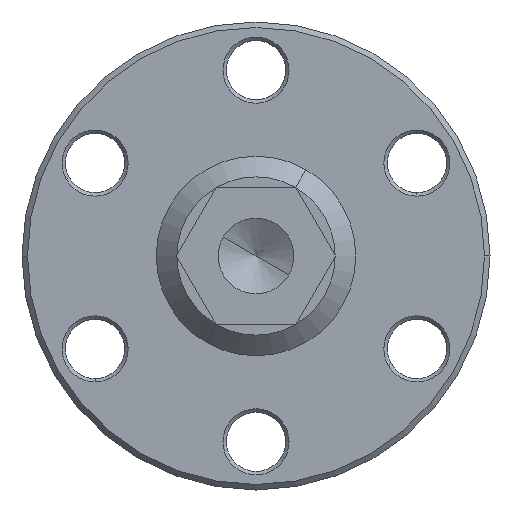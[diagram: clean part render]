
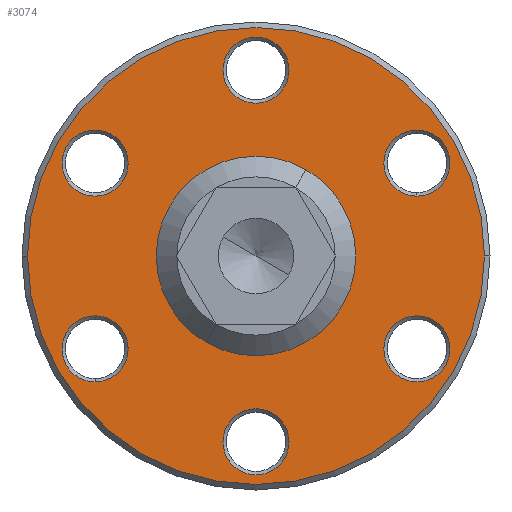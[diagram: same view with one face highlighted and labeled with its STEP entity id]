
A CAD part, left-side view. The second image highlights one B-rep face of the part: STEP entity #3074.
In plain terms, the highlighted planar face has unit normal (-1, 0, 0).
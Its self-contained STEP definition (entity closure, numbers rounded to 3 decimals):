
#91=CARTESIAN_POINT('',(0.,-16.6,0.));
#92=VERTEX_POINT('',#91);
#101=CARTESIAN_POINT('',(0.,16.6,0.));
#102=VERTEX_POINT('',#101);
#103=CARTESIAN_POINT('',(0.,0.,0.0));
#104=DIRECTION('',(1.0,0.0,0.0));
#105=DIRECTION('',(0.0,-1.0,0.0));
#106=AXIS2_PLACEMENT_3D('',#103,#104,#105);
#107=CIRCLE('',#106,16.6);
#108=EDGE_CURVE('',#92,#102,#107,.T.);
#694=CARTESIAN_POINT('',(0.,11.691,-9.15));
#695=VERTEX_POINT('',#694);
#709=CARTESIAN_POINT('',(0.,11.691,-4.35));
#710=VERTEX_POINT('',#709);
#717=CARTESIAN_POINT('',(0.,11.691,-6.75));
#718=DIRECTION('',(-1.0,0.0,0.0));
#719=DIRECTION('',(0.0,0.0,-1.0));
#720=AXIS2_PLACEMENT_3D('',#717,#718,#719);
#721=CIRCLE('',#720,2.4);
#722=EDGE_CURVE('',#710,#695,#721,.T.);
#833=CARTESIAN_POINT('',(0.,13.77,5.55));
#834=VERTEX_POINT('',#833);
#848=CARTESIAN_POINT('',(0.,9.613,7.95));
#849=VERTEX_POINT('',#848);
#856=CARTESIAN_POINT('',(0.,11.691,6.75));
#857=DIRECTION('',(-1.,0.,0.));
#858=DIRECTION('',(0.,0.866,-0.5));
#859=AXIS2_PLACEMENT_3D('',#856,#857,#858);
#860=CIRCLE('',#859,2.4);
#861=EDGE_CURVE('',#849,#834,#860,.T.);
#972=CARTESIAN_POINT('',(0.,2.078,14.7));
#973=VERTEX_POINT('',#972);
#987=CARTESIAN_POINT('',(0.,-2.078,12.3));
#988=VERTEX_POINT('',#987);
#995=CARTESIAN_POINT('',(0.,0.,13.5));
#996=DIRECTION('',(-1.,0.,0.));
#997=DIRECTION('',(0.,0.866,0.5));
#998=AXIS2_PLACEMENT_3D('',#995,#996,#997);
#999=CIRCLE('',#998,2.4);
#1000=EDGE_CURVE('',#988,#973,#999,.T.);
#1111=CARTESIAN_POINT('',(0.,-11.691,9.15));
#1112=VERTEX_POINT('',#1111);
#1126=CARTESIAN_POINT('',(0.,-11.691,4.35));
#1127=VERTEX_POINT('',#1126);
#1134=CARTESIAN_POINT('',(0.,-11.691,6.75));
#1135=DIRECTION('',(-1.0,0.0,0.0));
#1136=DIRECTION('',(0.0,0.0,1.0));
#1137=AXIS2_PLACEMENT_3D('',#1134,#1135,#1136);
#1138=CIRCLE('',#1137,2.4);
#1139=EDGE_CURVE('',#1127,#1112,#1138,.T.);
#1250=CARTESIAN_POINT('',(0.,-13.77,-5.55));
#1251=VERTEX_POINT('',#1250);
#1265=CARTESIAN_POINT('',(0.,-9.613,-7.95));
#1266=VERTEX_POINT('',#1265);
#1273=CARTESIAN_POINT('',(0.,-11.691,-6.75));
#1274=DIRECTION('',(-1.,0.,0.));
#1275=DIRECTION('',(0.,-0.866,0.5));
#1276=AXIS2_PLACEMENT_3D('',#1273,#1274,#1275);
#1277=CIRCLE('',#1276,2.4);
#1278=EDGE_CURVE('',#1266,#1251,#1277,.T.);
#1389=CARTESIAN_POINT('',(0.,-2.078,-14.7));
#1390=VERTEX_POINT('',#1389);
#1404=CARTESIAN_POINT('',(0.,2.078,-12.3));
#1405=VERTEX_POINT('',#1404);
#1412=CARTESIAN_POINT('',(0.,0.,-13.5));
#1413=DIRECTION('',(-1.0,0.,0.));
#1414=DIRECTION('',(0.,-0.866,-0.5));
#1415=AXIS2_PLACEMENT_3D('',#1412,#1413,#1414);
#1416=CIRCLE('',#1415,2.4);
#1417=EDGE_CURVE('',#1405,#1390,#1416,.T.);
#2148=CARTESIAN_POINT('',(0.,3.15,-5.456));
#2149=VERTEX_POINT('',#2148);
#2158=CARTESIAN_POINT('',(0.,-3.15,5.456));
#2159=VERTEX_POINT('',#2158);
#2160=CARTESIAN_POINT('',(0.0,0.0,0.0));
#2161=DIRECTION('',(1.0,0.0,0.0));
#2162=DIRECTION('',(0.0,0.0,1.0));
#2163=AXIS2_PLACEMENT_3D('',#2160,#2161,#2162);
#2164=CIRCLE('',#2163,6.3);
#2165=EDGE_CURVE('',#2159,#2149,#2164,.T.);
#2199=CARTESIAN_POINT('',(0.0,0.0,6.3));
#2200=VERTEX_POINT('',#2199);
#2201=CARTESIAN_POINT('',(0.0,0.0,0.0));
#2202=DIRECTION('',(1.0,0.0,0.0));
#2203=DIRECTION('',(0.0,0.0,1.0));
#2204=AXIS2_PLACEMENT_3D('',#2201,#2202,#2203);
#2205=CIRCLE('',#2204,6.3);
#2206=EDGE_CURVE('',#2200,#2159,#2205,.T.);
#2208=CARTESIAN_POINT('',(0.0,0.0,0.0));
#2209=DIRECTION('',(1.0,0.0,0.0));
#2210=DIRECTION('',(0.0,0.0,1.0));
#2211=AXIS2_PLACEMENT_3D('',#2208,#2209,#2210);
#2212=CIRCLE('',#2211,6.3);
#2213=EDGE_CURVE('',#2149,#2200,#2212,.T.);
#2955=CARTESIAN_POINT('',(0.,0.,-13.5));
#2956=DIRECTION('',(-1.0,0.,0.));
#2957=DIRECTION('',(0.,-0.866,-0.5));
#2958=AXIS2_PLACEMENT_3D('',#2955,#2956,#2957);
#2959=CIRCLE('',#2958,2.4);
#2960=EDGE_CURVE('',#1390,#1405,#2959,.T.);
#3000=CARTESIAN_POINT('',(0.0,8.5,0.0));
#3001=DIRECTION('',(-1.0,0.0,0.0));
#3002=DIRECTION('',(0.0,0.0,1.0));
#3003=AXIS2_PLACEMENT_3D('',#3000,#3001,#3002);
#3004=PLANE('',#3003);
#3005=CARTESIAN_POINT('',(0.,0.,0.0));
#3006=DIRECTION('',(1.0,0.0,0.0));
#3007=DIRECTION('',(0.0,-1.0,0.0));
#3008=AXIS2_PLACEMENT_3D('',#3005,#3006,#3007);
#3009=CIRCLE('',#3008,16.6);
#3010=EDGE_CURVE('',#102,#92,#3009,.T.);
#3011=ORIENTED_EDGE('',*,*,#3010,.F.);
#3012=ORIENTED_EDGE('',*,*,#108,.F.);
#3013=EDGE_LOOP('',(#3011,#3012));
#3014=FACE_OUTER_BOUND('',#3013,.T.);
#3015=ORIENTED_EDGE('',*,*,#2206,.T.);
#3016=ORIENTED_EDGE('',*,*,#2165,.T.);
#3017=ORIENTED_EDGE('',*,*,#2213,.T.);
#3018=EDGE_LOOP('',(#3015,#3016,#3017));
#3019=FACE_BOUND('',#3018,.T.);
#3020=ORIENTED_EDGE('',*,*,#1278,.F.);
#3021=CARTESIAN_POINT('',(0.,-11.691,-6.75));
#3022=DIRECTION('',(-1.,0.,0.));
#3023=DIRECTION('',(0.,-0.866,0.5));
#3024=AXIS2_PLACEMENT_3D('',#3021,#3022,#3023);
#3025=CIRCLE('',#3024,2.4);
#3026=EDGE_CURVE('',#1251,#1266,#3025,.T.);
#3027=ORIENTED_EDGE('',*,*,#3026,.F.);
#3028=EDGE_LOOP('',(#3020,#3027));
#3029=FACE_BOUND('',#3028,.T.);
#3030=ORIENTED_EDGE('',*,*,#1000,.F.);
#3031=CARTESIAN_POINT('',(0.,0.,13.5));
#3032=DIRECTION('',(-1.,0.,0.));
#3033=DIRECTION('',(0.,0.866,0.5));
#3034=AXIS2_PLACEMENT_3D('',#3031,#3032,#3033);
#3035=CIRCLE('',#3034,2.4);
#3036=EDGE_CURVE('',#973,#988,#3035,.T.);
#3037=ORIENTED_EDGE('',*,*,#3036,.F.);
#3038=EDGE_LOOP('',(#3030,#3037));
#3039=FACE_BOUND('',#3038,.T.);
#3040=ORIENTED_EDGE('',*,*,#722,.F.);
#3041=CARTESIAN_POINT('',(0.,11.691,-6.75));
#3042=DIRECTION('',(-1.0,0.0,0.0));
#3043=DIRECTION('',(0.0,0.0,-1.0));
#3044=AXIS2_PLACEMENT_3D('',#3041,#3042,#3043);
#3045=CIRCLE('',#3044,2.4);
#3046=EDGE_CURVE('',#695,#710,#3045,.T.);
#3047=ORIENTED_EDGE('',*,*,#3046,.F.);
#3048=EDGE_LOOP('',(#3040,#3047));
#3049=FACE_BOUND('',#3048,.T.);
#3050=ORIENTED_EDGE('',*,*,#861,.F.);
#3051=CARTESIAN_POINT('',(0.,11.691,6.75));
#3052=DIRECTION('',(-1.,0.,0.));
#3053=DIRECTION('',(0.,0.866,-0.5));
#3054=AXIS2_PLACEMENT_3D('',#3051,#3052,#3053);
#3055=CIRCLE('',#3054,2.4);
#3056=EDGE_CURVE('',#834,#849,#3055,.T.);
#3057=ORIENTED_EDGE('',*,*,#3056,.F.);
#3058=EDGE_LOOP('',(#3050,#3057));
#3059=FACE_BOUND('',#3058,.T.);
#3060=ORIENTED_EDGE('',*,*,#1139,.F.);
#3061=CARTESIAN_POINT('',(0.,-11.691,6.75));
#3062=DIRECTION('',(-1.0,0.0,0.0));
#3063=DIRECTION('',(0.0,0.0,1.0));
#3064=AXIS2_PLACEMENT_3D('',#3061,#3062,#3063);
#3065=CIRCLE('',#3064,2.4);
#3066=EDGE_CURVE('',#1112,#1127,#3065,.T.);
#3067=ORIENTED_EDGE('',*,*,#3066,.F.);
#3068=EDGE_LOOP('',(#3060,#3067));
#3069=FACE_BOUND('',#3068,.T.);
#3070=ORIENTED_EDGE('',*,*,#1417,.F.);
#3071=ORIENTED_EDGE('',*,*,#2960,.F.);
#3072=EDGE_LOOP('',(#3070,#3071));
#3073=FACE_BOUND('',#3072,.T.);
#3074=ADVANCED_FACE('',(#3014,#3019,#3029,#3039,#3049,#3059,#3069,#3073),#3004,.T.);
